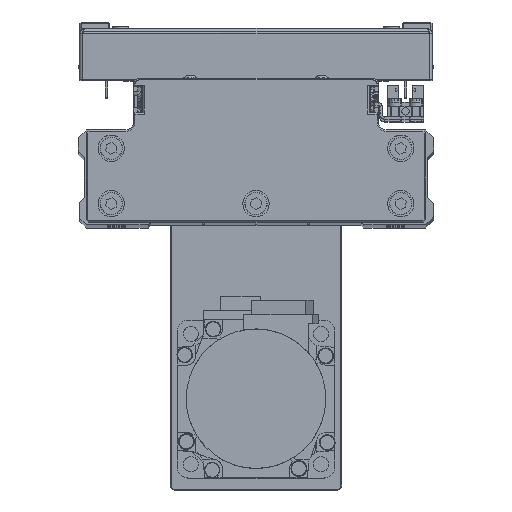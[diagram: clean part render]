
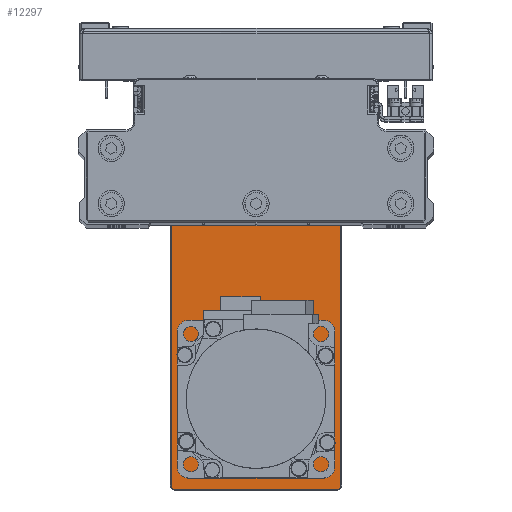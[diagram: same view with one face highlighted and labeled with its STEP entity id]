
A CAD part, top view. The second image highlights one B-rep face of the part: STEP entity #12297.
In plain terms, the highlighted planar face has unit normal (0, 0, 1) as drawn and (0, 1, 0) by its records, which use the part's own axes.
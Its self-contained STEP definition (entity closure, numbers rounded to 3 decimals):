
#264 = FACE_OUTER_BOUND ( 'NONE', #39389, .T. ) ;
#454 = EDGE_LOOP ( 'NONE', ( #31525, #26446 ) ) ;
#633 = CARTESIAN_POINT ( 'NONE',  ( -84.7, 6., 0. ) ) ;
#1111 = VERTEX_POINT ( 'NONE', #12785 ) ;
#1280 = DIRECTION ( 'NONE',  ( 0., 1., 0. ) ) ;
#1296 = CARTESIAN_POINT ( 'NONE',  ( -84.7, 6., -31. ) ) ;
#1378 = CARTESIAN_POINT ( 'NONE',  ( 75.992, 6., -7.026 ) ) ;
#1869 = CARTESIAN_POINT ( 'NONE',  ( -83.5, 6., -32.2 ) ) ;
#1932 = LINE ( 'NONE', #15556, #28526 ) ;
#2663 = ORIENTED_EDGE ( 'NONE', *, *, #39088, .F. ) ;
#2860 = AXIS2_PLACEMENT_3D ( 'NONE', #26630, #40294, #9638 ) ;
#3360 = CARTESIAN_POINT ( 'NONE',  ( 75.992, 6., -8.551 ) ) ;
#3582 = AXIS2_PLACEMENT_3D ( 'NONE', #12319, #25958, #39608 ) ;
#3638 = VECTOR ( 'NONE', #14263, 1000. ) ;
#3641 = FACE_BOUND ( 'NONE', #6291, .T. ) ;
#4266 = CIRCLE ( 'NONE', #29236, 1.525 ) ;
#4304 = EDGE_LOOP ( 'NONE', ( #19261, #13196 ) ) ;
#4322 = CIRCLE ( 'NONE', #29289, 10.3 ) ;
#4654 = DIRECTION ( 'NONE',  ( 0., 0., -1. ) ) ;
#4863 = VERTEX_POINT ( 'NONE', #17256 ) ;
#5184 = VERTEX_POINT ( 'NONE', #19699 ) ;
#5587 = CARTESIAN_POINT ( 'NONE',  ( 84.7, 6., -31. ) ) ;
#5646 = EDGE_CURVE ( 'NONE', #9258, #40089, #8192, .T. ) ;
#5773 = ORIENTED_EDGE ( 'NONE', *, *, #9782, .T. ) ;
#5908 = DIRECTION ( 'NONE',  ( 0., 1., 0. ) ) ;
#6223 = VERTEX_POINT ( 'NONE', #32063 ) ;
#6256 = ORIENTED_EDGE ( 'NONE', *, *, #42547, .T. ) ;
#6291 = EDGE_LOOP ( 'NONE', ( #2663, #10919 ) ) ;
#6668 = DIRECTION ( 'NONE',  ( 0., -1., 0. ) ) ;
#8192 = LINE ( 'NONE', #21850, #13298 ) ;
#8536 = CARTESIAN_POINT ( 'NONE',  ( 52.5, 6., 0. ) ) ;
#8635 = EDGE_CURVE ( 'NONE', #5184, #38302, #4266, .T. ) ;
#8881 = CARTESIAN_POINT ( 'NONE',  ( 61.051, 6., 23.492 ) ) ;
#9258 = VERTEX_POINT ( 'NONE', #10302 ) ;
#9521 = VERTEX_POINT ( 'NONE', #5587 ) ;
#9563 = CARTESIAN_POINT ( 'NONE',  ( -50.5, 6., -15. ) ) ;
#9638 = DIRECTION ( 'NONE',  ( 0., 0., -1. ) ) ;
#9758 = CARTESIAN_POINT ( 'NONE',  ( 83.5, 6., -31. ) ) ;
#9782 = EDGE_CURVE ( 'NONE', #35640, #20599, #31252, .T. ) ;
#9881 = CIRCLE ( 'NONE', #34859, 1.2 ) ;
#10195 = EDGE_CURVE ( 'NONE', #6223, #9521, #28739, .T. ) ;
#10276 = AXIS2_PLACEMENT_3D ( 'NONE', #36543, #5908, #19555 ) ;
#10302 = CARTESIAN_POINT ( 'NONE',  ( 83.5, 6., -32.2 ) ) ;
#10542 = DIRECTION ( 'NONE',  ( 0., -1., 0. ) ) ;
#10919 = ORIENTED_EDGE ( 'NONE', *, *, #8635, .F. ) ;
#10981 = CARTESIAN_POINT ( 'NONE',  ( 61.051, 6., 23.492 ) ) ;
#11236 = ORIENTED_EDGE ( 'NONE', *, *, #5646, .T. ) ;
#11751 = DIRECTION ( 'NONE',  ( 0., 0., -1. ) ) ;
#12213 = ORIENTED_EDGE ( 'NONE', *, *, #43907, .T. ) ;
#12297 = ADVANCED_FACE ( 'NONE', ( #3641, #17250, #30885, #264, #13894 ), #27524, .F. ) ;
#12319 = CARTESIAN_POINT ( 'NONE',  ( -83.5, 6., 31. ) ) ;
#12329 = ORIENTED_EDGE ( 'NONE', *, *, #21608, .T. ) ;
#12410 = VERTEX_POINT ( 'NONE', #1378 ) ;
#12570 = DIRECTION ( 'NONE',  ( 0., 1., 0. ) ) ;
#12614 = CARTESIAN_POINT ( 'NONE',  ( -83.5, 6., 32.2 ) ) ;
#12785 = CARTESIAN_POINT ( 'NONE',  ( 75.992, 6., -10.076 ) ) ;
#13096 = VERTEX_POINT ( 'NONE', #9563 ) ;
#13196 = ORIENTED_EDGE ( 'NONE', *, *, #38566, .F. ) ;
#13298 = VECTOR ( 'NONE', #35472, 1000. ) ;
#13579 = ORIENTED_EDGE ( 'NONE', *, *, #10195, .T. ) ;
#13894 = FACE_BOUND ( 'NONE', #43489, .T. ) ;
#14263 = DIRECTION ( 'NONE',  ( 0., 0., 1. ) ) ;
#14426 = EDGE_CURVE ( 'NONE', #13096, #29542, #16105, .T. ) ;
#14606 = AXIS2_PLACEMENT_3D ( 'NONE', #43232, #12570, #26212 ) ;
#14907 = DIRECTION ( 'NONE',  ( 0., 0., 1. ) ) ;
#15556 = CARTESIAN_POINT ( 'NONE',  ( 0., 6., 32.2 ) ) ;
#16105 = CIRCLE ( 'NONE', #41121, 15. ) ;
#16969 = DIRECTION ( 'NONE',  ( 0., 1., 0. ) ) ;
#17093 = VERTEX_POINT ( 'NONE', #29862 ) ;
#17250 = FACE_BOUND ( 'NONE', #4304, .T. ) ;
#17256 = CARTESIAN_POINT ( 'NONE',  ( 52.5, 6., 10.3 ) ) ;
#17507 = EDGE_CURVE ( 'NONE', #40089, #35640, #22127, .T. ) ;
#18051 = EDGE_CURVE ( 'NONE', #4863, #27094, #4322, .T. ) ;
#19261 = ORIENTED_EDGE ( 'NONE', *, *, #24024, .F. ) ;
#19555 = DIRECTION ( 'NONE',  ( 0., 0., 1. ) ) ;
#19699 = CARTESIAN_POINT ( 'NONE',  ( 61.051, 6., 21.967 ) ) ;
#20265 = AXIS2_PLACEMENT_3D ( 'NONE', #10981, #24627, #38266 ) ;
#20314 = DIRECTION ( 'NONE',  ( 0., 0., -1. ) ) ;
#20599 = VERTEX_POINT ( 'NONE', #33523 ) ;
#21223 = EDGE_CURVE ( 'NONE', #28162, #17093, #1932, .T. ) ;
#21491 = CARTESIAN_POINT ( 'NONE',  ( 61.051, 6., 25.017 ) ) ;
#21608 = EDGE_CURVE ( 'NONE', #20599, #28162, #22866, .T. ) ;
#21642 = CARTESIAN_POINT ( 'NONE',  ( 83.5, 6., 31. ) ) ;
#21850 = CARTESIAN_POINT ( 'NONE',  ( 0., 6., -32.2 ) ) ;
#22127 = CIRCLE ( 'NONE', #2860, 1.2 ) ;
#22191 = DIRECTION ( 'NONE',  ( 0., -1., 0. ) ) ;
#22538 = DIRECTION ( 'NONE',  ( 0., 1., 0. ) ) ;
#22866 = CIRCLE ( 'NONE', #3582, 1.2 ) ;
#23403 = DIRECTION ( 'NONE',  ( 0., 1., 0. ) ) ;
#23577 = EDGE_CURVE ( 'NONE', #29542, #13096, #29562, .T. ) ;
#24024 = EDGE_CURVE ( 'NONE', #12410, #1111, #33864, .T. ) ;
#24181 = DIRECTION ( 'NONE',  ( 0., 0., -1. ) ) ;
#24420 = AXIS2_PLACEMENT_3D ( 'NONE', #8536, #22191, #35813 ) ;
#24627 = DIRECTION ( 'NONE',  ( 0., 1., 0. ) ) ;
#25568 = CARTESIAN_POINT ( 'NONE',  ( 52.5, 6., -10.3 ) ) ;
#25958 = DIRECTION ( 'NONE',  ( 0., 1., 0. ) ) ;
#26212 = DIRECTION ( 'NONE',  ( 0., 0., 1. ) ) ;
#26446 = ORIENTED_EDGE ( 'NONE', *, *, #32466, .T. ) ;
#26630 = CARTESIAN_POINT ( 'NONE',  ( -83.5, 6., -31. ) ) ;
#26844 = ORIENTED_EDGE ( 'NONE', *, *, #14426, .F. ) ;
#27094 = VERTEX_POINT ( 'NONE', #25568 ) ;
#27524 = PLANE ( 'NONE',  #29678 ) ;
#28001 = CARTESIAN_POINT ( 'NONE',  ( -50.5, 6., 15. ) ) ;
#28162 = VERTEX_POINT ( 'NONE', #12614 ) ;
#28526 = VECTOR ( 'NONE', #29184, 1000. ) ;
#28739 = LINE ( 'NONE', #42419, #34342 ) ;
#29184 = DIRECTION ( 'NONE',  ( 1., 0., 0. ) ) ;
#29236 = AXIS2_PLACEMENT_3D ( 'NONE', #8881, #22538, #36172 ) ;
#29289 = AXIS2_PLACEMENT_3D ( 'NONE', #37300, #6668, #20314 ) ;
#29542 = VERTEX_POINT ( 'NONE', #28001 ) ;
#29562 = CIRCLE ( 'NONE', #10276, 15. ) ;
#29678 = AXIS2_PLACEMENT_3D ( 'NONE', #41200, #10542, #24181 ) ;
#29862 = CARTESIAN_POINT ( 'NONE',  ( 83.5, 6., 32.2 ) ) ;
#30203 = CIRCLE ( 'NONE', #35928, 1.525 ) ;
#30597 = DIRECTION ( 'NONE',  ( 0., 0., 1. ) ) ;
#30885 = FACE_BOUND ( 'NONE', #454, .T. ) ;
#31252 = LINE ( 'NONE', #633, #3638 ) ;
#31525 = ORIENTED_EDGE ( 'NONE', *, *, #18051, .T. ) ;
#31631 = ORIENTED_EDGE ( 'NONE', *, *, #21223, .T. ) ;
#31895 = CARTESIAN_POINT ( 'NONE',  ( -50.5, 6., 0. ) ) ;
#32063 = CARTESIAN_POINT ( 'NONE',  ( 84.7, 6., 31. ) ) ;
#32466 = EDGE_CURVE ( 'NONE', #27094, #4863, #43733, .T. ) ;
#33523 = CARTESIAN_POINT ( 'NONE',  ( -84.7, 6., 31. ) ) ;
#33864 = CIRCLE ( 'NONE', #14606, 1.525 ) ;
#34342 = VECTOR ( 'NONE', #11751, 1000. ) ;
#34859 = AXIS2_PLACEMENT_3D ( 'NONE', #9758, #23403, #37038 ) ;
#35265 = DIRECTION ( 'NONE',  ( 0., 1., 0. ) ) ;
#35472 = DIRECTION ( 'NONE',  ( -1., 0., 0. ) ) ;
#35640 = VERTEX_POINT ( 'NONE', #1296 ) ;
#35813 = DIRECTION ( 'NONE',  ( 0., 0., -1. ) ) ;
#35928 = AXIS2_PLACEMENT_3D ( 'NONE', #3360, #16969, #30597 ) ;
#36172 = DIRECTION ( 'NONE',  ( 0., 0., 1. ) ) ;
#36543 = CARTESIAN_POINT ( 'NONE',  ( -50.5, 6., 0. ) ) ;
#37038 = DIRECTION ( 'NONE',  ( 0., 0., -1. ) ) ;
#37300 = CARTESIAN_POINT ( 'NONE',  ( 52.5, 6., 0. ) ) ;
#37760 = CIRCLE ( 'NONE', #43505, 1.2 ) ;
#38266 = DIRECTION ( 'NONE',  ( 0., 0., 1. ) ) ;
#38302 = VERTEX_POINT ( 'NONE', #21491 ) ;
#38566 = EDGE_CURVE ( 'NONE', #1111, #12410, #30203, .T. ) ;
#39088 = EDGE_CURVE ( 'NONE', #38302, #5184, #39553, .T. ) ;
#39389 = EDGE_LOOP ( 'NONE', ( #12213, #11236, #41450, #5773, #12329, #31631, #6256, #13579 ) ) ;
#39553 = CIRCLE ( 'NONE', #20265, 1.525 ) ;
#39608 = DIRECTION ( 'NONE',  ( 0., 0., -1. ) ) ;
#40089 = VERTEX_POINT ( 'NONE', #1869 ) ;
#40294 = DIRECTION ( 'NONE',  ( 0., 1., 0. ) ) ;
#41121 = AXIS2_PLACEMENT_3D ( 'NONE', #31895, #1280, #14907 ) ;
#41200 = CARTESIAN_POINT ( 'NONE',  ( 0., 6., 0. ) ) ;
#41450 = ORIENTED_EDGE ( 'NONE', *, *, #17507, .T. ) ;
#42419 = CARTESIAN_POINT ( 'NONE',  ( 84.7, 6., 0. ) ) ;
#42476 = ORIENTED_EDGE ( 'NONE', *, *, #23577, .F. ) ;
#42547 = EDGE_CURVE ( 'NONE', #17093, #6223, #37760, .T. ) ;
#43232 = CARTESIAN_POINT ( 'NONE',  ( 75.992, 6., -8.551 ) ) ;
#43489 = EDGE_LOOP ( 'NONE', ( #42476, #26844 ) ) ;
#43505 = AXIS2_PLACEMENT_3D ( 'NONE', #21642, #35265, #4654 ) ;
#43733 = CIRCLE ( 'NONE', #24420, 10.3 ) ;
#43907 = EDGE_CURVE ( 'NONE', #9521, #9258, #9881, .T. ) ;
